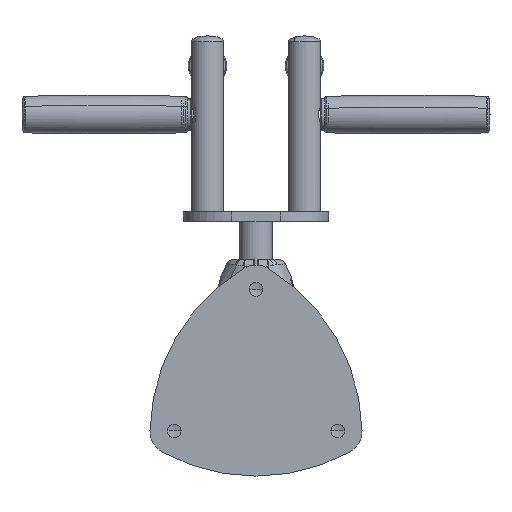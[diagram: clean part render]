
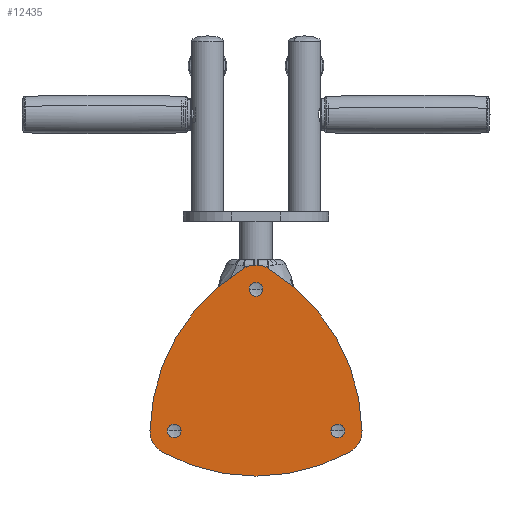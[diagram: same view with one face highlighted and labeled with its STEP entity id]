
A CAD part, front view. The second image highlights one B-rep face of the part: STEP entity #12435.
In plain terms, the highlighted planar face has unit normal (0, -1, 0).
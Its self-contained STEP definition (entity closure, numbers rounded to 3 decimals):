
#145 = FACE_OUTER_BOUND ( 'NONE', #14727, .T. ) ;
#388 = EDGE_CURVE ( 'NONE', #4622, #15848, #13069, .T. ) ;
#441 = CIRCLE ( 'NONE', #15789, 25. ) ;
#1487 = DIRECTION ( 'NONE',  ( 0., 1., 0. ) ) ;
#1588 = AXIS2_PLACEMENT_3D ( 'NONE', #15351, #19828, #28416 ) ;
#1671 = VERTEX_POINT ( 'NONE', #12791 ) ;
#1736 = DIRECTION ( 'NONE',  ( 0., 0., -1. ) ) ;
#1985 = DIRECTION ( 'NONE',  ( 0., 0., -1. ) ) ;
#2681 = EDGE_CURVE ( 'NONE', #27910, #1671, #11201, .T. ) ;
#3008 = DIRECTION ( 'NONE',  ( 0., 1., 0. ) ) ;
#3126 = DIRECTION ( 'NONE',  ( 0., 1., 0. ) ) ;
#3187 = DIRECTION ( 'NONE',  ( 0., 1., 0. ) ) ;
#3350 = CARTESIAN_POINT ( 'NONE',  ( 84.134, 0., -48.575 ) ) ;
#3557 = DIRECTION ( 'NONE',  ( 0., 0., -1. ) ) ;
#3828 = CARTESIAN_POINT ( 'NONE',  ( 0., 0., 97.15 ) ) ;
#3886 = CIRCLE ( 'NONE', #23837, 25. ) ;
#3916 = DIRECTION ( 'NONE',  ( 0., 0., -1. ) ) ;
#4035 = ORIENTED_EDGE ( 'NONE', *, *, #388, .F. ) ;
#4622 = VERTEX_POINT ( 'NONE', #8086 ) ;
#5693 = AXIS2_PLACEMENT_3D ( 'NONE', #12815, #24261, #1736 ) ;
#5719 = DIRECTION ( 'NONE',  ( 0., 1., 0. ) ) ;
#5739 = CARTESIAN_POINT ( 'NONE',  ( 84.134, 0., -48.575 ) ) ;
#5934 = CARTESIAN_POINT ( 'NONE',  ( 90.823, 0., -52.437 ) ) ;
#6505 = DIRECTION ( 'NONE',  ( 0., 1., 0. ) ) ;
#6527 = ORIENTED_EDGE ( 'NONE', *, *, #10454, .T. ) ;
#6577 = AXIS2_PLACEMENT_3D ( 'NONE', #27697, #10537, #3557 ) ;
#6714 = AXIS2_PLACEMENT_3D ( 'NONE', #26741, #20628, #24699 ) ;
#7386 = CARTESIAN_POINT ( 'NONE',  ( -3.344, 0., -50.506 ) ) ;
#7417 = ORIENTED_EDGE ( 'NONE', *, *, #9167, .T. ) ;
#7719 = DIRECTION ( 'NONE',  ( 0., 0., 1. ) ) ;
#7909 = CARTESIAN_POINT ( 'NONE',  ( 0., 0., 97.15 ) ) ;
#8086 = CARTESIAN_POINT ( 'NONE',  ( 12.975, 0., 118.52 ) ) ;
#8275 = EDGE_CURVE ( 'NONE', #15848, #24369, #3886, .T. ) ;
#8278 = DIRECTION ( 'NONE',  ( 0., 0., -1. ) ) ;
#8318 = CIRCLE ( 'NONE', #10945, 7. ) ;
#9111 = EDGE_LOOP ( 'NONE', ( #6527, #9296 ) ) ;
#9167 = EDGE_CURVE ( 'NONE', #1671, #27910, #17906, .T. ) ;
#9296 = ORIENTED_EDGE ( 'NONE', *, *, #18708, .T. ) ;
#9497 = AXIS2_PLACEMENT_3D ( 'NONE', #28656, #12327, #21161 ) ;
#9805 = CARTESIAN_POINT ( 'NONE',  ( 84.134, 0., -41.575 ) ) ;
#9965 = CIRCLE ( 'NONE', #9497, 25. ) ;
#10040 = EDGE_LOOP ( 'NONE', ( #23695, #7417 ) ) ;
#10055 = DIRECTION ( 'NONE',  ( 0., 1., 0. ) ) ;
#10132 = CARTESIAN_POINT ( 'NONE',  ( -84.134, 0., -55.575 ) ) ;
#10320 = DIRECTION ( 'NONE',  ( 0., 1., 0. ) ) ;
#10454 = EDGE_CURVE ( 'NONE', #17541, #19829, #8318, .T. ) ;
#10537 = DIRECTION ( 'NONE',  ( 0., 1., 0. ) ) ;
#10945 = AXIS2_PLACEMENT_3D ( 'NONE', #25847, #6505, #1985 ) ;
#11095 = EDGE_CURVE ( 'NONE', #24963, #23690, #19216, .T. ) ;
#11201 = CIRCLE ( 'NONE', #22377, 7. ) ;
#11651 = EDGE_CURVE ( 'NONE', #27326, #15177, #12309, .T. ) ;
#11978 = ORIENTED_EDGE ( 'NONE', *, *, #24429, .F. ) ;
#12309 = CIRCLE ( 'NONE', #1588, 25. ) ;
#12327 = DIRECTION ( 'NONE',  ( 0., 1., 0. ) ) ;
#12435 = ADVANCED_FACE ( 'NONE', ( #145, #17887, #20205, #18024 ), #26888, .F. ) ;
#12791 = CARTESIAN_POINT ( 'NONE',  ( 0., 0., 90.15 ) ) ;
#12815 = CARTESIAN_POINT ( 'NONE',  ( 0., 0., 104.873 ) ) ;
#13069 = CIRCLE ( 'NONE', #6577, 200. ) ;
#13205 = CARTESIAN_POINT ( 'NONE',  ( 0., 0., 97.15 ) ) ;
#13420 = EDGE_LOOP ( 'NONE', ( #17523, #16231 ) ) ;
#14319 = ORIENTED_EDGE ( 'NONE', *, *, #11651, .F. ) ;
#14727 = EDGE_LOOP ( 'NONE', ( #4035, #25398, #18774, #20538, #14319, #11978, #18945 ) ) ;
#15177 = VERTEX_POINT ( 'NONE', #27389 ) ;
#15334 = AXIS2_PLACEMENT_3D ( 'NONE', #3350, #10055, #23536 ) ;
#15351 = CARTESIAN_POINT ( 'NONE',  ( -84.134, 0., -48.575 ) ) ;
#15554 = AXIS2_PLACEMENT_3D ( 'NONE', #7386, #3008, #24554 ) ;
#15789 = AXIS2_PLACEMENT_3D ( 'NONE', #13205, #10320, #8278 ) ;
#15848 = VERTEX_POINT ( 'NONE', #23091 ) ;
#16000 = EDGE_CURVE ( 'NONE', #20067, #18166, #441, .T. ) ;
#16231 = ORIENTED_EDGE ( 'NONE', *, *, #11095, .T. ) ;
#16929 = EDGE_CURVE ( 'NONE', #23690, #24963, #25066, .T. ) ;
#16944 = CARTESIAN_POINT ( 'NONE',  ( -96.154, 0., -70.496 ) ) ;
#17523 = ORIENTED_EDGE ( 'NONE', *, *, #16929, .T. ) ;
#17541 = VERTEX_POINT ( 'NONE', #20780 ) ;
#17745 = CIRCLE ( 'NONE', #18672, 200. ) ;
#17887 = FACE_BOUND ( 'NONE', #10040, .T. ) ;
#17906 = CIRCLE ( 'NONE', #21613, 7. ) ;
#18024 = FACE_BOUND ( 'NONE', #13420, .T. ) ;
#18166 = VERTEX_POINT ( 'NONE', #22065 ) ;
#18568 = CARTESIAN_POINT ( 'NONE',  ( 0., 0., 104.15 ) ) ;
#18672 = AXIS2_PLACEMENT_3D ( 'NONE', #5934, #3187, #7719 ) ;
#18708 = EDGE_CURVE ( 'NONE', #19829, #17541, #25571, .T. ) ;
#18774 = ORIENTED_EDGE ( 'NONE', *, *, #16000, .F. ) ;
#18945 = ORIENTED_EDGE ( 'NONE', *, *, #8275, .F. ) ;
#19185 = CARTESIAN_POINT ( 'NONE',  ( 96.154, 0., -70.496 ) ) ;
#19216 = CIRCLE ( 'NONE', #6714, 7. ) ;
#19496 = DIRECTION ( 'NONE',  ( 0., 0., -1. ) ) ;
#19828 = DIRECTION ( 'NONE',  ( 0., 1., 0. ) ) ;
#19829 = VERTEX_POINT ( 'NONE', #10132 ) ;
#19994 = AXIS2_PLACEMENT_3D ( 'NONE', #26422, #23821, #3916 ) ;
#20067 = VERTEX_POINT ( 'NONE', #27991 ) ;
#20205 = FACE_BOUND ( 'NONE', #9111, .T. ) ;
#20538 = ORIENTED_EDGE ( 'NONE', *, *, #21394, .F. ) ;
#20628 = DIRECTION ( 'NONE',  ( 0., 1., 0. ) ) ;
#20780 = CARTESIAN_POINT ( 'NONE',  ( -84.134, 0., -41.575 ) ) ;
#21161 = DIRECTION ( 'NONE',  ( 0., 0., -1. ) ) ;
#21394 = EDGE_CURVE ( 'NONE', #15177, #20067, #17745, .T. ) ;
#21613 = AXIS2_PLACEMENT_3D ( 'NONE', #3828, #5719, #23584 ) ;
#22065 = CARTESIAN_POINT ( 'NONE',  ( 0., 0., 122.15 ) ) ;
#22377 = AXIS2_PLACEMENT_3D ( 'NONE', #7909, #1487, #19496 ) ;
#23091 = CARTESIAN_POINT ( 'NONE',  ( 109.128, 0., -48.023 ) ) ;
#23462 = DIRECTION ( 'NONE',  ( 0., 0., -1. ) ) ;
#23536 = DIRECTION ( 'NONE',  ( 0., 0., -1. ) ) ;
#23584 = DIRECTION ( 'NONE',  ( 0., 0., -1. ) ) ;
#23690 = VERTEX_POINT ( 'NONE', #9805 ) ;
#23695 = ORIENTED_EDGE ( 'NONE', *, *, #2681, .T. ) ;
#23821 = DIRECTION ( 'NONE',  ( 0., 1., 0. ) ) ;
#23837 = AXIS2_PLACEMENT_3D ( 'NONE', #5739, #3126, #23462 ) ;
#24261 = DIRECTION ( 'NONE',  ( 0., 1., 0. ) ) ;
#24369 = VERTEX_POINT ( 'NONE', #19185 ) ;
#24429 = EDGE_CURVE ( 'NONE', #24369, #27326, #27040, .T. ) ;
#24554 = DIRECTION ( 'NONE',  ( 0., 0., -1. ) ) ;
#24699 = DIRECTION ( 'NONE',  ( 0., 0., -1. ) ) ;
#24945 = CARTESIAN_POINT ( 'NONE',  ( 84.134, 0., -55.575 ) ) ;
#24963 = VERTEX_POINT ( 'NONE', #24945 ) ;
#25066 = CIRCLE ( 'NONE', #15334, 7. ) ;
#25398 = ORIENTED_EDGE ( 'NONE', *, *, #27251, .F. ) ;
#25571 = CIRCLE ( 'NONE', #19994, 7. ) ;
#25847 = CARTESIAN_POINT ( 'NONE',  ( -84.134, 0., -48.575 ) ) ;
#26422 = CARTESIAN_POINT ( 'NONE',  ( -84.134, 0., -48.575 ) ) ;
#26741 = CARTESIAN_POINT ( 'NONE',  ( 84.134, 0., -48.575 ) ) ;
#26888 = PLANE ( 'NONE',  #15554 ) ;
#27040 = CIRCLE ( 'NONE', #5693, 200. ) ;
#27251 = EDGE_CURVE ( 'NONE', #18166, #4622, #9965, .T. ) ;
#27326 = VERTEX_POINT ( 'NONE', #16944 ) ;
#27389 = CARTESIAN_POINT ( 'NONE',  ( -109.128, 0., -48.023 ) ) ;
#27697 = CARTESIAN_POINT ( 'NONE',  ( -90.823, 0., -52.437 ) ) ;
#27910 = VERTEX_POINT ( 'NONE', #18568 ) ;
#27991 = CARTESIAN_POINT ( 'NONE',  ( -12.975, 0., 118.52 ) ) ;
#28416 = DIRECTION ( 'NONE',  ( 0., 0., 1. ) ) ;
#28656 = CARTESIAN_POINT ( 'NONE',  ( 0., 0., 97.15 ) ) ;
